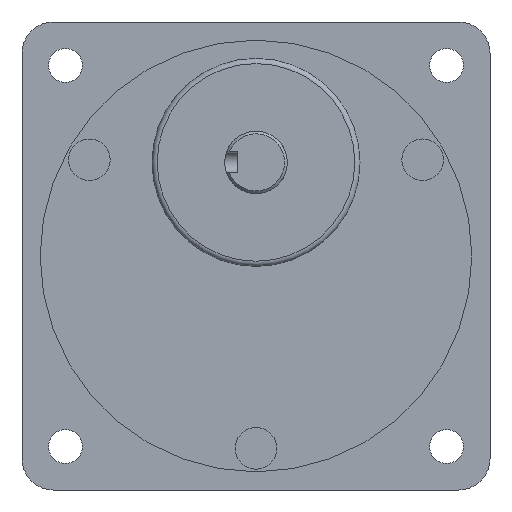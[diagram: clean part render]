
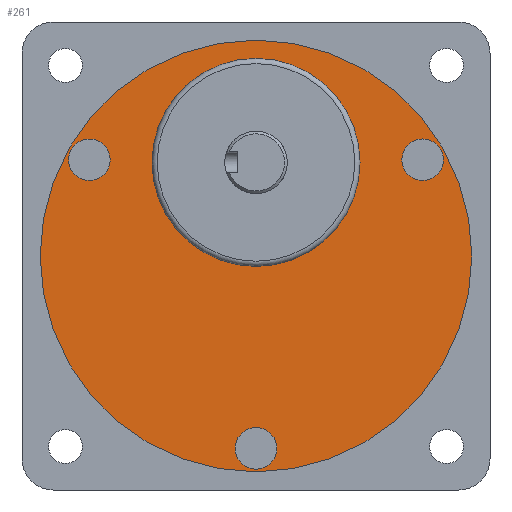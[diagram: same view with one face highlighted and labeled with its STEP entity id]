
A CAD part, front view. The second image highlights one B-rep face of the part: STEP entity #261.
In plain terms, the highlighted planar face has unit normal (0, -1, 0).
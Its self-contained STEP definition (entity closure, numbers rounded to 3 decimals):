
#121=CARTESIAN_POINT('',(30.043,0.5,21.964));
#122=VERTEX_POINT('',#121);
#123=CARTESIAN_POINT('',(32.043,0.5,18.5));
#124=DIRECTION('',(0.0,1.0,0.0));
#125=DIRECTION('',(0.5,0.0,-0.866));
#126=AXIS2_PLACEMENT_3D('',#123,#124,#125);
#127=CIRCLE('',#126,4.);
#128=EDGE_CURVE('',#122,#122,#127,.T.);
#158=CARTESIAN_POINT('',(-34.043,0.5,15.036));
#159=VERTEX_POINT('',#158);
#160=CARTESIAN_POINT('',(-32.043,0.5,18.5));
#161=DIRECTION('',(0.0,1.,0.0));
#162=DIRECTION('',(0.5,0.0,0.866));
#163=AXIS2_PLACEMENT_3D('',#160,#161,#162);
#164=CIRCLE('',#163,4.0);
#165=EDGE_CURVE('',#159,#159,#164,.T.);
#195=CARTESIAN_POINT('',(4.0,0.5,-37.0));
#196=VERTEX_POINT('',#195);
#197=CARTESIAN_POINT('',(0.0,0.5,-37.0));
#198=DIRECTION('',(0.0,1.0,0.0));
#199=DIRECTION('',(-1.0,0.0,0.0));
#200=AXIS2_PLACEMENT_3D('',#197,#198,#199);
#201=CIRCLE('',#200,4.0);
#202=EDGE_CURVE('',#196,#196,#201,.T.);
#221=CARTESIAN_POINT('',(41.5,0.5,0.));
#222=VERTEX_POINT('',#221);
#223=CARTESIAN_POINT('',(0.0,0.5,0.0));
#224=DIRECTION('',(0.0,-1.0,0.0));
#225=DIRECTION('',(-1.0,0.0,0.0));
#226=AXIS2_PLACEMENT_3D('',#223,#224,#225);
#227=CIRCLE('',#226,41.5);
#228=EDGE_CURVE('',#222,#222,#227,.T.);
#244=CARTESIAN_POINT('',(0.0,0.5,0.0));
#245=DIRECTION('',(0.0,1.0,0.0));
#246=DIRECTION('',(0.0,0.0,1.0));
#247=AXIS2_PLACEMENT_3D('',#244,#245,#246);
#248=PLANE('',#247);
#249=ORIENTED_EDGE('',*,*,#228,.T.);
#250=EDGE_LOOP('',(#249));
#251=FACE_OUTER_BOUND('',#250,.T.);
#252=ORIENTED_EDGE('',*,*,#128,.T.);
#253=EDGE_LOOP('',(#252));
#254=FACE_BOUND('',#253,.T.);
#255=ORIENTED_EDGE('',*,*,#165,.T.);
#256=EDGE_LOOP('',(#255));
#257=FACE_BOUND('',#256,.T.);
#258=ORIENTED_EDGE('',*,*,#202,.T.);
#259=EDGE_LOOP('',(#258));
#260=FACE_BOUND('',#259,.T.);
#261=ADVANCED_FACE('',(#251,#254,#257,#260),#248,.F.);
